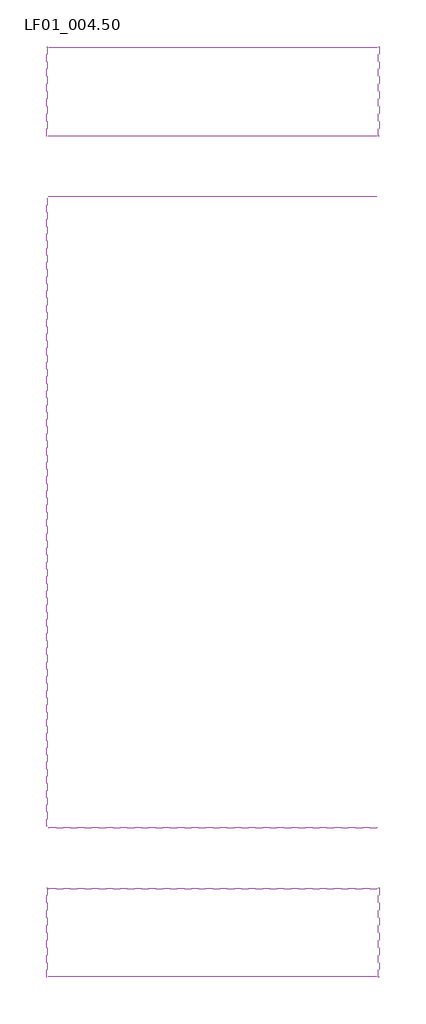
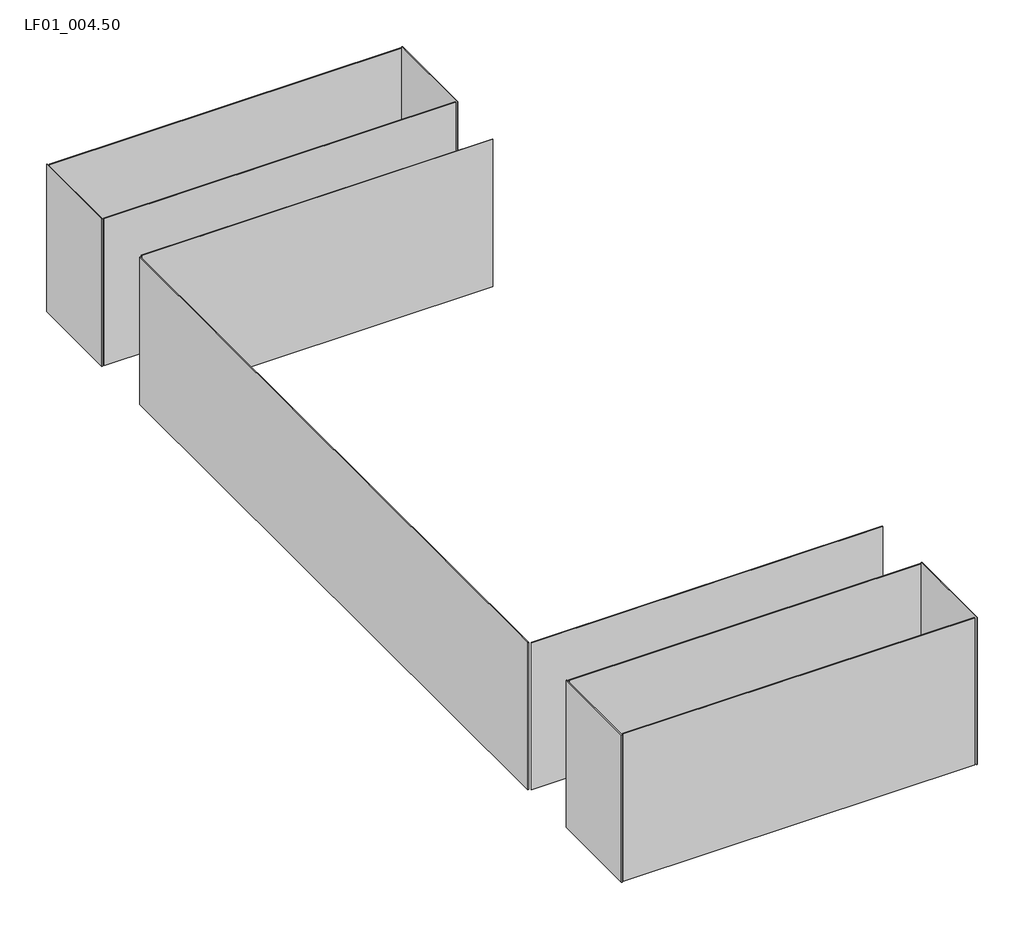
# One storey, incomplete: 11 proxies.
"""IFC4 building model written with IfcOpenShell, lengths in millimetres."""

from ifc_helpers import new_model, si_unit, frame, origin, place, context, project, spatial, polyline, outline, extrude, element, save

model = new_model("IFC4")

# Units and contexts
model_context = context("Model", 3, world=origin())
ifc_project = project(units=[si_unit("LENGTHUNIT", "METRE", prefix="MILLI")], contexts=[model_context])

# Site, building, storey
site = spatial("IfcSite", under=ifc_project)
building = spatial("IfcBuilding", under=site)
storey = spatial("IfcBuildingStorey", under=building, Name="LF01_004.50", Elevation=4500.0)

# Proxies
placement = place(None, origin())
element("IfcBuildingElementProxy", 1, Name="ovest : ovest", ObjectType="ovest : ovest", at=placement, inside=storey, context=model_context, shape_type="SweptSolid", body=[
    extrude(outline(polyline([(-55608.4593251, 22202.8645918), (-55608.4593251, -40825.6682101), (-55682.4593251, -40825.6682101), (-55682.4593251, 22202.8645918), (-55608.4593251, 22202.8645918)])), frame((0.0, 0.0, 7840.0), z_axis=(0.0, 0.0, 1.0), x_axis=(1.0, 0.0, 0.0)), (0.0, 0.0, 1.0), 14600.0),
])
element("IfcBuildingElementProxy", 2, Name="ovest2 : ovest", ObjectType="ovest2 : ovest", at=placement, inside=storey, context=model_context, shape_type="SweptSolid", body=[
    extrude(outline(polyline([(-55446.8564966, 22404.9256838), (-22495.5621541, 22404.9256838), (-22495.5621541, 22330.9256838), (-55446.8564966, 22330.9256838), (-55446.8564966, 22404.9256838)])), frame((0.0, 0.0, 7840.0), z_axis=(0.0, 0.0, 1.0), x_axis=(1.0, 0.0, 0.0)), (0.0, 0.0, 1.0), 14600.0),
])
element("IfcBuildingElementProxy", 3, Name="ovest3 : ovest", ObjectType="ovest3 : ovest", at=placement, inside=storey, context=model_context, shape_type="SweptSolid", body=[
    extrude(outline(polyline([(-55446.8564966, -40932.0653807), (-22495.5621541, -40932.0653807), (-22495.5621541, -41006.0653807), (-55446.8564966, -41006.0653807), (-55446.8564966, -40932.0653807)])), frame((0.0, 0.0, 7840.0), z_axis=(0.0, 0.0, 1.0), x_axis=(1.0, 0.0, 0.0)), (0.0, 0.0, 1.0), 14600.0),
])
element("IfcBuildingElementProxy", 4, Name="ovest5 : ovest", ObjectType="ovest5 : ovest", at=placement, inside=storey, context=model_context, shape_type="SweptSolid", body=[
    extrude(outline(polyline([(-55446.8564966, -55856.8381053), (-22495.5621541, -55856.8381053), (-22495.5621541, -55930.8381053), (-55446.8564966, -55930.8381053), (-55446.8564966, -55856.8381053)])), frame((0.0, 0.0, 7840.0), z_axis=(0.0, 0.0, 1.0), x_axis=(1.0, 0.0, 0.0)), (0.0, 0.0, 1.0), 14600.0),
])
element("IfcBuildingElementProxy", 5, Name="ovest6 : ovest", ObjectType="ovest6 : ovest", at=placement, inside=storey, context=model_context, shape_type="SweptSolid", body=[
    extrude(outline(polyline([(-55446.8564966, 37335.7144998), (-22495.5621541, 37335.7144998), (-22495.5621541, 37261.7144998), (-55446.8564966, 37261.7144999), (-55446.8564966, 37335.7144998)])), frame((0.0, 0.0, 7840.0), z_axis=(0.0, 0.0, 1.0), x_axis=(1.0, 0.0, 0.0)), (0.0, 0.0, 1.0), 14600.0),
])
element("IfcBuildingElementProxy", 6, Name="ovest7 : ovest", ObjectType="ovest7 : ovest", at=placement, inside=storey, context=model_context, shape_type="SweptSolid", body=[
    extrude(outline(polyline([(-55446.8564966, 28469.1618947), (-22495.5621541, 28469.1618947), (-22495.5621541, 28395.1618947), (-55446.8564966, 28395.1618947), (-55446.8564966, 28469.1618947)])), frame((0.0, 0.0, 7840.0), z_axis=(0.0, 0.0, 1.0), x_axis=(1.0, 0.0, 0.0)), (0.0, 0.0, 1.0), 14600.0),
])
element("IfcBuildingElementProxy", 7, Name="ovest8 : ovest", ObjectType="ovest8 : ovest", at=placement, inside=storey, context=model_context, shape_type="SweptSolid", body=[
    extrude(outline(polyline([(-55668.0487711, 28399.9381775), (-55668.0487711, 37399.9381775), (-55594.0487712, 37399.9381775), (-55594.0487712, 28399.9381775), (-55668.0487711, 28399.9381775)])), frame((0.0, 0.0, 7840.0), z_axis=(0.0, 0.0, 1.0), x_axis=(1.0, 0.0, 0.0)), (0.0, 0.0, 1.0), 14600.0),
])
element("IfcBuildingElementProxy", 8, Name="ovest9 : ovest", ObjectType="ovest9 : ovest", at=placement, inside=storey, context=model_context, shape_type="SweptSolid", body=[
    extrude(outline(polyline([(-22345.6763189, 28399.9381775), (-22345.6763189, 37399.9381775), (-22271.6763189, 37399.9381775), (-22271.6763189, 28399.9381775), (-22345.6763189, 28399.9381775)])), frame((0.0, 0.0, 7840.0), z_axis=(0.0, 0.0, 1.0), x_axis=(1.0, 0.0, 0.0)), (0.0, 0.0, 1.0), 14600.0),
])
element("IfcBuildingElementProxy", 9, Name="ovest10 : ovest", ObjectType="ovest10 : ovest", at=placement, inside=storey, context=model_context, shape_type="SweptSolid", body=[
    extrude(outline(polyline([(-55446.8564966, -47064.2855002), (-22495.5621541, -47064.2855002), (-22495.5621541, -47138.2855002), (-55446.8564966, -47138.2855001), (-55446.8564966, -47064.2855002)])), frame((0.0, 0.0, 7840.0), z_axis=(0.0, 0.0, 1.0), x_axis=(1.0, 0.0, 0.0)), (0.0, 0.0, 1.0), 14600.0),
])
element("IfcBuildingElementProxy", 10, Name="ovest12 : ovest", ObjectType="ovest12 : ovest", at=placement, inside=storey, context=model_context, shape_type="SweptSolid", body=[
    extrude(outline(polyline([(-55668.0487711, -56000.0618225), (-55668.0487711, -47000.0618225), (-55594.0487712, -47000.0618225), (-55594.0487712, -56000.0618225), (-55668.0487711, -56000.0618225)])), frame((0.0, 0.0, 7840.0), z_axis=(0.0, 0.0, 1.0), x_axis=(1.0, 0.0, 0.0)), (0.0, 0.0, 1.0), 14600.0),
])
element("IfcBuildingElementProxy", 11, Name="ovest13 : ovest", ObjectType="ovest13 : ovest", at=placement, inside=storey, context=model_context, shape_type="SweptSolid", body=[
    extrude(outline(polyline([(-22345.6763189, -56000.0618225), (-22345.6763189, -47000.0618225), (-22271.6763189, -47000.0618225), (-22271.6763189, -56000.0618225), (-22345.6763189, -56000.0618225)])), frame((0.0, 0.0, 7840.0), z_axis=(0.0, 0.0, 1.0), x_axis=(1.0, 0.0, 0.0)), (0.0, 0.0, 1.0), 14600.0),
])

save(model, "model.ifc")
